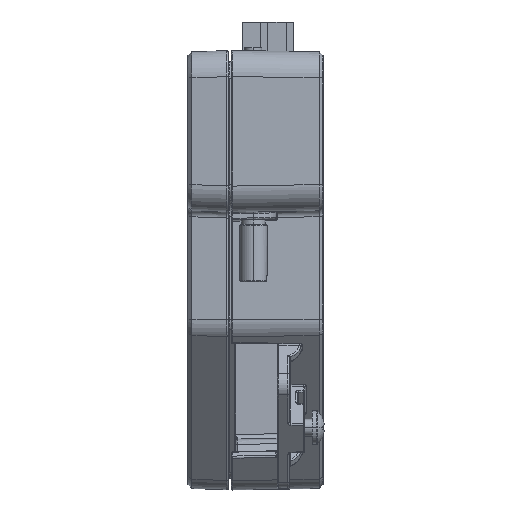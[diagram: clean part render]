
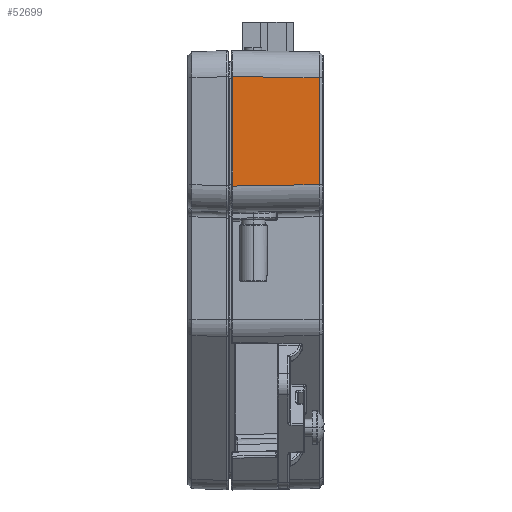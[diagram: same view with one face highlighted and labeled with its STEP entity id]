
A CAD part, left-side view. The second image highlights one B-rep face of the part: STEP entity #52699.
In plain terms, the highlighted planar face has unit normal (-1, -0.018, 0).
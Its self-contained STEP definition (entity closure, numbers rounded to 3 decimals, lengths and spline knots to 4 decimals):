
#11890=CARTESIAN_POINT('',(-1.718,0.027,
-0.8655));
#17290=DIRECTION('',(0.,0.,1.));
#17291=VECTOR('',#17290,0.7156);
#17292=CARTESIAN_POINT('',(-1.7278,0.5898,
-0.8753));
#17293=LINE('',#17292,#17291);
#17294=DIRECTION('',(-0.017,1.,0.017));
#17295=VECTOR('',#17294,0.563);
#17296=CARTESIAN_POINT('',(-1.718,0.027,
-0.1695));
#17297=LINE('',#17296,#17295);
#17298=DIRECTION('',(0.,0.,1.));
#17299=VECTOR('',#17298,0.696);
#17300=CARTESIAN_POINT('',(-1.718,0.027,
-0.8655));
#17301=LINE('',#17300,#17299);
#17302=DIRECTION('',(0.017,-1.,0.017));
#17303=VECTOR('',#17302,0.563);
#17304=CARTESIAN_POINT('',(-1.7278,0.5898,
-0.8753));
#17305=LINE('',#17304,#17303);
#17306=CARTESIAN_POINT('',(-1.7278,0.5898,
-0.1597));
#31447=VERTEX_POINT('',#11890);
#31449=CARTESIAN_POINT('',(-1.718,0.027,
-0.1695));
#31450=VERTEX_POINT('',#31449);
#32046=VERTEX_POINT('',#17306);
#32049=CARTESIAN_POINT('',(-1.7278,0.5898,
-0.8753));
#32050=VERTEX_POINT('',#32049);
#52687=CARTESIAN_POINT('',(-1.7175,0.,-2.0893));
#52688=DIRECTION('',(-1.,-0.017,0.));
#52689=DIRECTION('',(0.,0.,1.));
#52690=AXIS2_PLACEMENT_3D('',#52687,#52688,#52689);
#52691=PLANE('',#52690);
#52692=ORIENTED_EDGE('',*,*,#46280,.T.);
#52694=ORIENTED_EDGE('',*,*,#52693,.F.);
#52695=ORIENTED_EDGE('',*,*,#52678,.F.);
#52696=ORIENTED_EDGE('',*,*,#46215,.F.);
#52697=EDGE_LOOP('',(#52692,#52694,#52695,#52696));
#52698=FACE_OUTER_BOUND('',#52697,.F.);
#52699=ADVANCED_FACE('',(#52698),#52691,.T.);
#46215=EDGE_CURVE('',#32050,#31447,#17305,.T.);
#46280=EDGE_CURVE('',#32050,#32046,#17293,.T.);
#52678=EDGE_CURVE('',#31447,#31450,#17301,.T.);
#52693=EDGE_CURVE('',#31450,#32046,#17297,.T.);
